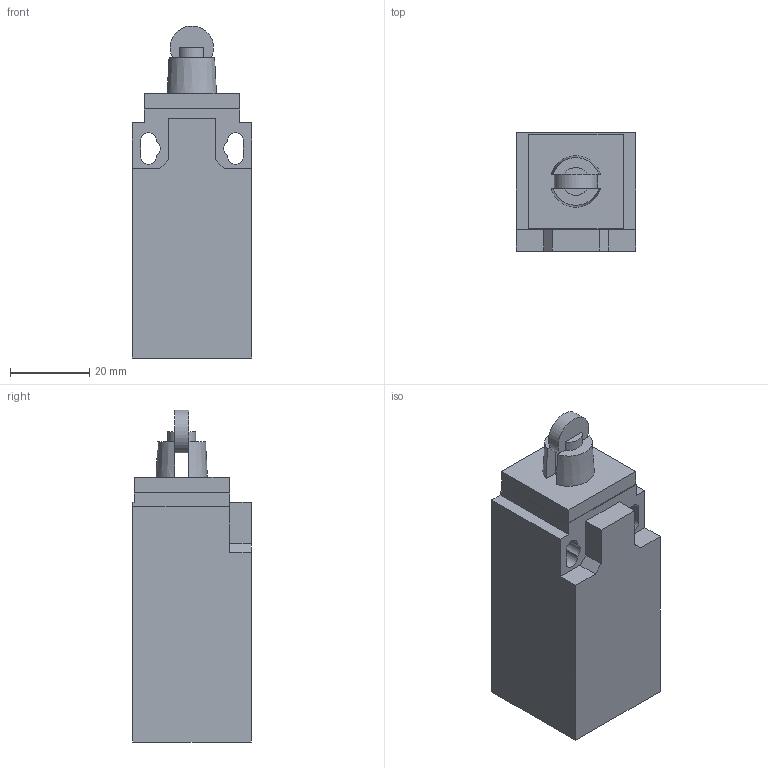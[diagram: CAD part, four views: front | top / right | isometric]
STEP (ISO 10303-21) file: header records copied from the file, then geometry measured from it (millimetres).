
FILE_DESCRIPTION((''),'2;1');
FILE_NAME('C:\Workarea\Disegni\Comepi\Catalogo\Stp\Finecorsa\AP1_T12.iam.step','2011-07-22T16:14:52',(''),(''),'Autodesk Inventor 2012','Autodesk Inventor 2012','');
FILE_SCHEMA(('AUTOMOTIVE_DESIGN { 1 0 10303 214 1 1 1 1 }'));
Length unit declared in the file: millimetre
Products named in the file (5): AP1_T12; AP1; T12; T12_1; T12_2
Assembly tree (4 placements, depth 3):
  AP1_T12
    AP1
    T12
      T12_1
      T12_2
Bounding box: 30.3 x 30 x 84 mm (x, y, z)
Volume: 52268.4 mm3; surface area: 13835.4 mm2
Topology: 3 solids, 3 shells, 60 faces, 153 edges, 100 vertices
Faces by surface type: plane 47, cylinder 11, cone 2
Full cylindrical faces by diameter (mm): 7 x1, 11 x1, 20.4 x1
Entity records: 1964 total; most frequent: CARTESIAN_POINT 325, DIRECTION 314, ORIENTED_EDGE 298, EDGE_CURVE 149, VECTOR 114, LINE 114, AXIS2_PLACEMENT_3D 100, VERTEX_POINT 99
